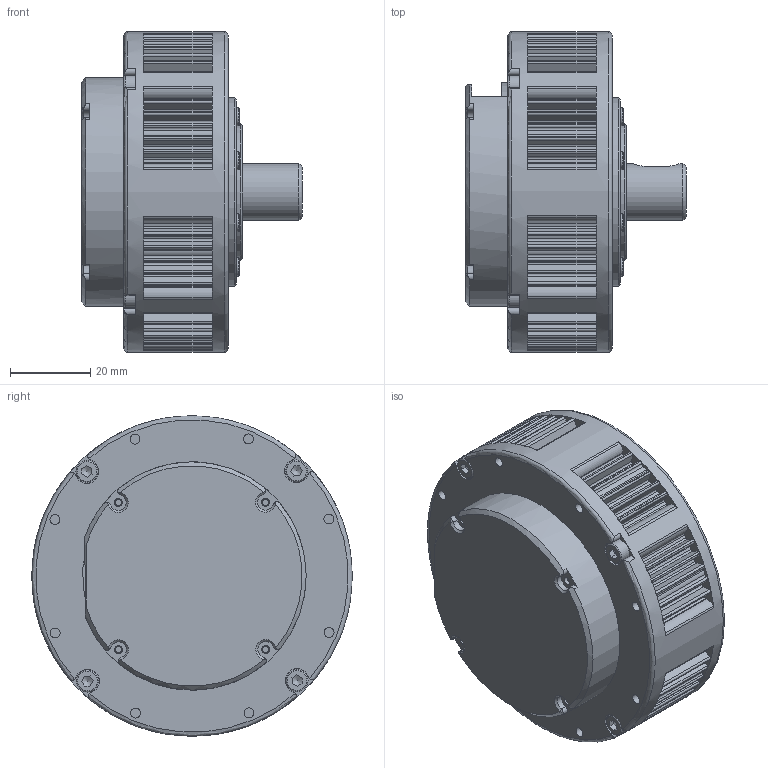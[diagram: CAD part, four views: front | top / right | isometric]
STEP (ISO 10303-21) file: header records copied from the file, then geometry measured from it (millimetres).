
FILE_DESCRIPTION(/* description */ (''),/* implementation_level */ '2;1');
FILE_NAME(/* name */ '',/* time_stamp */ '2024-07-02T14:34:04+08:00',/* author */ ('Admin'),/* organization */ (''),/* preprocessor_version */ 'ST-DEVELOPER v19.2',/* originating_system */ 'Autodesk Inventor 2024',/* authorisation */ '');
FILE_SCHEMA (('CONFIG_CONTROL_DESIGN'));
Length unit declared in the file: millimetre
Products named in the file (2): 6010-8出轴安装尺寸图; 6010-8输出轴_简化_1
Assembly tree (1 placements, depth 2):
  6010-8出轴安装尺寸图
    6010-8输出轴_简化_1
Bounding box: 55 x 80 x 80 mm (x, y, z)
Volume: 127555.6 mm3; surface area: 36699.8 mm2
Topology: 1 solids, 1 shells, 925 faces, 2391 edges, 1589 vertices
Faces by surface type: cylinder 451, plane 401, cone 44, torus 27, bspline 2
Full cylindrical faces by diameter (mm): 1.567 x8, 2 x4, 2.459 x22, 3 x3, 4.5 x8, 5 x1, 5.5 x7, 5.7 x3, 6 x1, 10 x1, 12 x1, 13 x1, 14 x1, 15 x1, 18 x1, 34 x1, 47 x1, 67 x1, 80 x1
Entity records: 29081 total; most frequent: CARTESIAN_POINT 5374, DIRECTION 5314, ORIENTED_EDGE 4774, EDGE_CURVE 2387, AXIS2_PLACEMENT_3D 2078, VERTEX_POINT 1589, LINE 1158, VECTOR 1158
